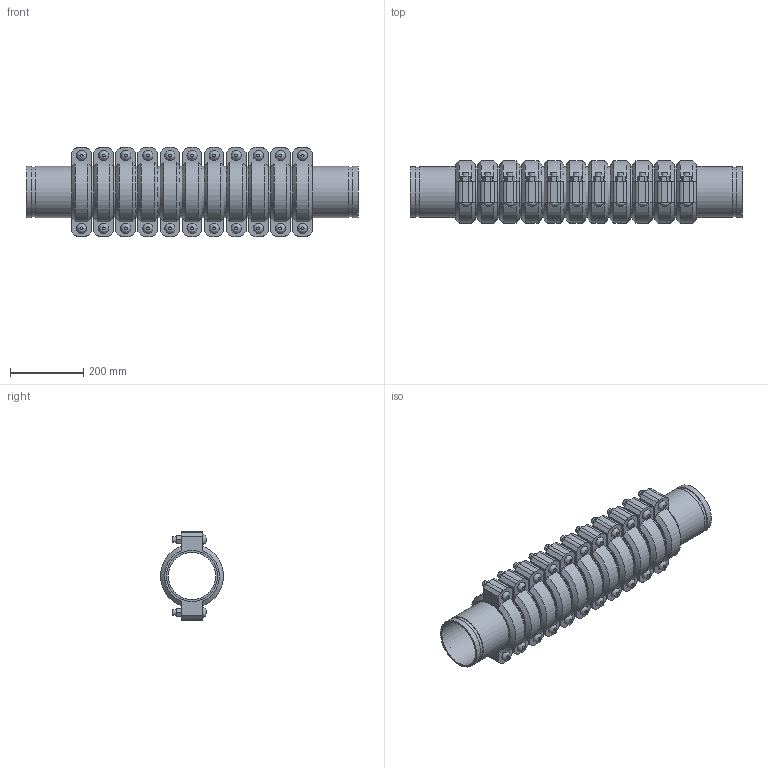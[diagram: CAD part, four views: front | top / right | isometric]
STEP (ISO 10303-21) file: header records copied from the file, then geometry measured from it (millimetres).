
FILE_DESCRIPTION(/* description */ ('VIC EXPANSION JOINT 11 COUPLINGS COMPRESSED STYLE 155 (OGS)','CAx-IF Rec.Pracs.---Representation and Presentation of Product Manufacturing Information (PMI)---4.0---2014-10-13'),/* implementation_level */ '2;1');
FILE_NAME(/* name */ 'C:\Users\kkamble\AppData\Roaming\Autodesk\ApplicationPlugins\Victaulic.Temp\A956\Victaulic_IPS_Expansion Joint_Compressed_11 Couplings_Style 155 (OGS)_05.0 (139.7) (125).stp',/* time_stamp */ '2021-06-27T00:19:15+02:00',/* author */ ('kkamble'),/* organization */ ('Victaulic'),/* preprocessor_version */ 'ST-DEVELOPER v17.2',/* originating_system */ 'Autodesk Inventor 2019',/* authorisation */ '');
FILE_SCHEMA (('AP242_MANAGED_MODEL_BASED_3D_ENGINEERING_MIM_LF { 1 0 10303 442 1 1 4 }'));
Length unit declared in the file: inch
Products named in the file (4): 155-05.0 (139.7); Nipple-05.0 (139.7); Nipple-05.0 (139.7)_1; 075_11_Coup05.0 (139.7)
Assembly tree (23 placements, depth 2):
  155-05.0 (139.7)
    Nipple-05.0 (139.7)  x2
    Nipple-05.0 (139.7)_1  x10
    075_11_Coup05.0 (139.7)  x11
Bounding box: 908.56 x 172.14 x 243.59 mm (x, y, z)
Volume: 8704230.8 mm3; surface area: 1939178.1 mm2
Topology: 23 solids, 45 shells, 771 faces, 1823 edges, 1278 vertices
Faces by surface type: plane 468, cylinder 237, cone 44, bspline 22
Full cylindrical faces by diameter (mm): 15.875 x44, 17.424 x22, 129.388 x12, 133.35 x11, 135.484 x24, 139.7 x58
Entity records: 2906 total; most frequent: CARTESIAN_POINT 507, DIRECTION 489, ORIENTED_EDGE 386, AXIS2_PLACEMENT_3D 198, EDGE_CURVE 193, VERTEX_POINT 138, EDGE_LOOP 107, LINE 93
